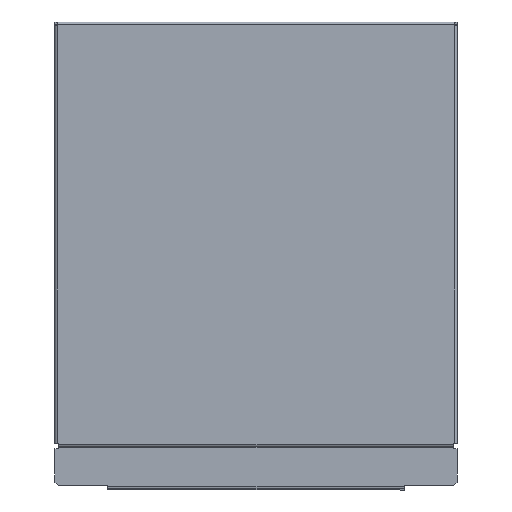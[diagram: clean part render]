
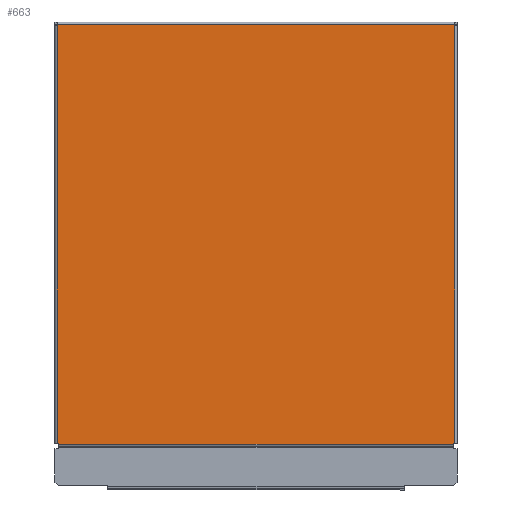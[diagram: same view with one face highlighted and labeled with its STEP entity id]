
A CAD part, front view. The second image highlights one B-rep face of the part: STEP entity #663.
In plain terms, the highlighted planar face has unit normal (0, -1, 0).
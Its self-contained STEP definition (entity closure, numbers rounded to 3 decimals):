
#268 = VERTEX_POINT ( 'NONE', #415 ) ;
#271 = VERTEX_POINT ( 'NONE', #414 ) ;
#275 = VERTEX_POINT ( 'NONE', #413 ) ;
#278 = VERTEX_POINT ( 'NONE', #412 ) ;
#282 = VERTEX_POINT ( 'NONE', #411 ) ;
#294 = VERTEX_POINT ( 'NONE', #408 ) ;
#297 = VERTEX_POINT ( 'NONE', #407 ) ;
#300 = VERTEX_POINT ( 'NONE', #406 ) ;
#322 = DIRECTION ( 'NONE',  ( 1., 0., 0. ) ) ;
#323 = DIRECTION ( 'NONE',  ( 0., -1., 0. ) ) ;
#324 = CARTESIAN_POINT ( 'NONE',  ( -80., -6., 17. ) ) ;
#325 = PLANE ( 'NONE',  #1213 ) ;
#373 = CARTESIAN_POINT ( 'NONE',  ( -78.5, -6., 17.5 ) ) ;
#374 = CARTESIAN_POINT ( 'NONE',  ( -78.5, -6., 17. ) ) ;
#406 = CARTESIAN_POINT ( 'NONE',  ( 78.5, -6., 17. ) ) ;
#407 = CARTESIAN_POINT ( 'NONE',  ( -79., -6., 183.5 ) ) ;
#408 = CARTESIAN_POINT ( 'NONE',  ( -79., -6., 17.5 ) ) ;
#411 = CARTESIAN_POINT ( 'NONE',  ( 79., -6., 183.5 ) ) ;
#412 = CARTESIAN_POINT ( 'NONE',  ( 79., -6., 17.5 ) ) ;
#413 = CARTESIAN_POINT ( 'NONE',  ( 79., -6., 184. ) ) ;
#414 = CARTESIAN_POINT ( 'NONE',  ( -79., -6., 184. ) ) ;
#415 = CARTESIAN_POINT ( 'NONE',  ( 78.5, -6., 17.5 ) ) ;
#545 = VERTEX_POINT ( 'NONE', #374 ) ;
#546 = VERTEX_POINT ( 'NONE', #373 ) ;
#629 = CARTESIAN_POINT ( 'NONE',  ( -79., -6., 202.385 ) ) ;
#630 = DIRECTION ( 'NONE',  ( 0., 0., -1. ) ) ;
#631 = CARTESIAN_POINT ( 'NONE',  ( -80., -6., 17.5 ) ) ;
#632 = DIRECTION ( 'NONE',  ( 1., 0., 0. ) ) ;
#633 = CARTESIAN_POINT ( 'NONE',  ( -78.5, -6., 17.5 ) ) ;
#634 = DIRECTION ( 'NONE',  ( 0., 0., -1. ) ) ;
#635 = CARTESIAN_POINT ( 'NONE',  ( -80., -6., 17. ) ) ;
#636 = DIRECTION ( 'NONE',  ( 1., 0., 0. ) ) ;
#637 = CARTESIAN_POINT ( 'NONE',  ( 78.5, -6., 15.3 ) ) ;
#638 = DIRECTION ( 'NONE',  ( 0., 0., 1. ) ) ;
#639 = CARTESIAN_POINT ( 'NONE',  ( 78.5, -6., 17.5 ) ) ;
#640 = DIRECTION ( 'NONE',  ( 1., 0., 0. ) ) ;
#641 = CARTESIAN_POINT ( 'NONE',  ( 79., -6., 202.385 ) ) ;
#642 = DIRECTION ( 'NONE',  ( 0., 0., -1. ) ) ;
#663 = ADVANCED_FACE ( 'NONE', ( #1957 ), #325, .T. ) ;
#920 = EDGE_LOOP ( 'NONE', ( #1923, #1922, #1921, #1920, #1919, #1918, #1917, #1916, #1915, #1914 ) ) ;
#1078 = DIRECTION ( 'NONE',  ( 0., 0., -1. ) ) ;
#1083 = CARTESIAN_POINT ( 'NONE',  ( 79., -6., 202.385 ) ) ;
#1085 = DIRECTION ( 'NONE',  ( 1., 0., 0. ) ) ;
#1088 = CARTESIAN_POINT ( 'NONE',  ( -80., -6., 184. ) ) ;
#1092 = DIRECTION ( 'NONE',  ( 0., 0., -1. ) ) ;
#1095 = CARTESIAN_POINT ( 'NONE',  ( -79., -6., 202.385 ) ) ;
#1205 = EDGE_CURVE ( 'NONE', #271, #297, #2239, .T. ) ;
#1206 = EDGE_CURVE ( 'NONE', #271, #275, #2241, .T. ) ;
#1207 = EDGE_CURVE ( 'NONE', #275, #282, #2243, .T. ) ;
#1213 = AXIS2_PLACEMENT_3D ( 'NONE', #324, #323, #322 ) ;
#1914 = ORIENTED_EDGE ( 'NONE', *, *, #1205, .T. ) ;
#1915 = ORIENTED_EDGE ( 'NONE', *, *, #1206, .F. ) ;
#1916 = ORIENTED_EDGE ( 'NONE', *, *, #1207, .F. ) ;
#1917 = ORIENTED_EDGE ( 'NONE', *, *, #2484, .F. ) ;
#1918 = ORIENTED_EDGE ( 'NONE', *, *, #2483, .T. ) ;
#1919 = ORIENTED_EDGE ( 'NONE', *, *, #2482, .T. ) ;
#1920 = ORIENTED_EDGE ( 'NONE', *, *, #2481, .T. ) ;
#1921 = ORIENTED_EDGE ( 'NONE', *, *, #2480, .T. ) ;
#1922 = ORIENTED_EDGE ( 'NONE', *, *, #2479, .T. ) ;
#1923 = ORIENTED_EDGE ( 'NONE', *, *, #2478, .T. ) ;
#1957 = FACE_OUTER_BOUND ( 'NONE', #920, .T. ) ;
#2239 = LINE ( 'NONE', #1095, #2240 ) ;
#2240 = VECTOR ( 'NONE', #1092, 1000. ) ;
#2241 = LINE ( 'NONE', #1088, #2242 ) ;
#2242 = VECTOR ( 'NONE', #1085, 1000. ) ;
#2243 = LINE ( 'NONE', #1083, #2244 ) ;
#2244 = VECTOR ( 'NONE', #1078, 1000. ) ;
#2406 = LINE ( 'NONE', #629, #2407 ) ;
#2407 = VECTOR ( 'NONE', #630, 1000. ) ;
#2408 = LINE ( 'NONE', #631, #2409 ) ;
#2409 = VECTOR ( 'NONE', #632, 1000. ) ;
#2410 = LINE ( 'NONE', #633, #2411 ) ;
#2411 = VECTOR ( 'NONE', #634, 1000. ) ;
#2412 = LINE ( 'NONE', #635, #2413 ) ;
#2413 = VECTOR ( 'NONE', #636, 1000. ) ;
#2414 = LINE ( 'NONE', #637, #2415 ) ;
#2415 = VECTOR ( 'NONE', #638, 1000. ) ;
#2416 = LINE ( 'NONE', #639, #2417 ) ;
#2417 = VECTOR ( 'NONE', #640, 1000. ) ;
#2418 = LINE ( 'NONE', #641, #2419 ) ;
#2419 = VECTOR ( 'NONE', #642, 1000. ) ;
#2478 = EDGE_CURVE ( 'NONE', #297, #294, #2406, .T. ) ;
#2479 = EDGE_CURVE ( 'NONE', #294, #546, #2408, .T. ) ;
#2480 = EDGE_CURVE ( 'NONE', #546, #545, #2410, .T. ) ;
#2481 = EDGE_CURVE ( 'NONE', #545, #300, #2412, .T. ) ;
#2482 = EDGE_CURVE ( 'NONE', #300, #268, #2414, .T. ) ;
#2483 = EDGE_CURVE ( 'NONE', #268, #278, #2416, .T. ) ;
#2484 = EDGE_CURVE ( 'NONE', #282, #278, #2418, .T. ) ;
